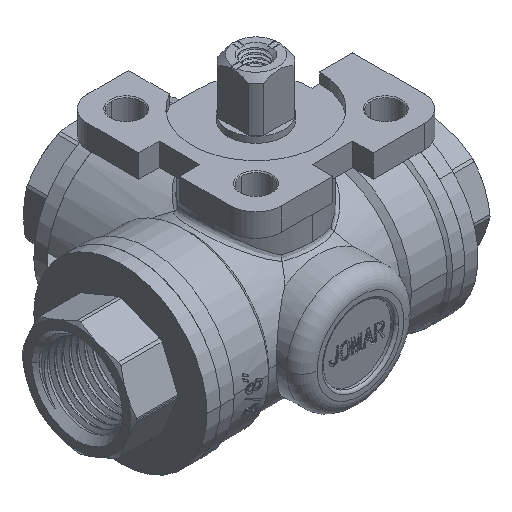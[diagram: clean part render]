
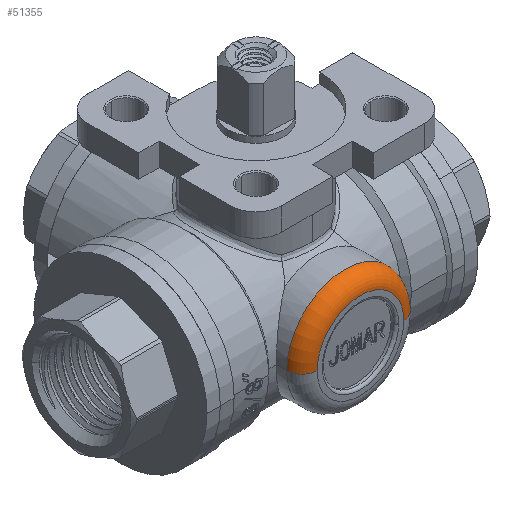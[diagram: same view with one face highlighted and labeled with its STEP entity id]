
A CAD part, isometric view. The second image highlights one B-rep face of the part: STEP entity #51355.
In plain terms, the highlighted toroidal (fillet/blend) face has major radius 0.335 mm and minor radius 0.118 mm.
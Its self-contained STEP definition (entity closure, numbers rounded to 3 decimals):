
#51075 = CYLINDRICAL_SURFACE('',#51076,0.453);
#51076 = AXIS2_PLACEMENT_3D('',#51077,#51078,#51079);
#51077 = CARTESIAN_POINT('',(-30.33,-7.971,
    -14.964));
#51078 = DIRECTION('',(0.,-1.,0.));
#51079 = DIRECTION('',(1.,0.,0.));
#51261 = VERTEX_POINT('',#51262);
#51262 = CARTESIAN_POINT('',(-30.783,-7.892,
    -14.964));
#51283 = EDGE_CURVE('',#51284,#51261,#51286,.T.);
#51284 = VERTEX_POINT('',#51285);
#51285 = CARTESIAN_POINT('',(-29.877,-7.892,
    -14.964));
#51286 = SURFACE_CURVE('',#51287,(#51292,#51299),.PCURVE_S1.);
#51287 = CIRCLE('',#51288,0.453);
#51288 = AXIS2_PLACEMENT_3D('',#51289,#51290,#51291);
#51289 = CARTESIAN_POINT('',(-30.33,-7.892,
    -14.964));
#51290 = DIRECTION('',(0.,-1.,0.));
#51291 = DIRECTION('',(1.,0.,0.));
#51292 = PCURVE('',#51075,#51293);
#51293 = DEFINITIONAL_REPRESENTATION('',(#51294),#51298);
#51294 = LINE('',#51295,#51296);
#51295 = CARTESIAN_POINT('',(0.,-0.079));
#51296 = VECTOR('',#51297,1.);
#51297 = DIRECTION('',(1.,0.));
#51298 = ( GEOMETRIC_REPRESENTATION_CONTEXT(2) 
PARAMETRIC_REPRESENTATION_CONTEXT() REPRESENTATION_CONTEXT('2D SPACE',''
  ) );
#51299 = PCURVE('',#51300,#51305);
#51300 = TOROIDAL_SURFACE('',#51301,0.335,0.118);
#51301 = AXIS2_PLACEMENT_3D('',#51302,#51303,#51304);
#51302 = CARTESIAN_POINT('',(-30.33,-7.892,
    -14.964));
#51303 = DIRECTION('',(0.,-1.,0.));
#51304 = DIRECTION('',(1.,0.,0.));
#51305 = DEFINITIONAL_REPRESENTATION('',(#51306),#51310);
#51306 = LINE('',#51307,#51308);
#51307 = CARTESIAN_POINT('',(0.,0.));
#51308 = VECTOR('',#51309,1.);
#51309 = DIRECTION('',(1.,0.));
#51310 = ( GEOMETRIC_REPRESENTATION_CONTEXT(2) 
PARAMETRIC_REPRESENTATION_CONTEXT() REPRESENTATION_CONTEXT('2D SPACE',''
  ) );
#51355 = ADVANCED_FACE('',(#51356),#51300,.T.);
#51356 = FACE_BOUND('',#51357,.T.);
#51357 = EDGE_LOOP('',(#51358,#51359,#51388,#51417));
#51358 = ORIENTED_EDGE('',*,*,#51283,.T.);
#51359 = ORIENTED_EDGE('',*,*,#51360,.T.);
#51360 = EDGE_CURVE('',#51261,#51361,#51363,.T.);
#51361 = VERTEX_POINT('',#51362);
#51362 = CARTESIAN_POINT('',(-30.665,-8.01,
    -14.964));
#51363 = SURFACE_CURVE('',#51364,(#51369,#51376),.PCURVE_S1.);
#51364 = CIRCLE('',#51365,0.118);
#51365 = AXIS2_PLACEMENT_3D('',#51366,#51367,#51368);
#51366 = CARTESIAN_POINT('',(-30.665,-7.892,
    -14.964));
#51367 = DIRECTION('',(0.,0.,1.));
#51368 = DIRECTION('',(-1.,0.,0.));
#51369 = PCURVE('',#51300,#51370);
#51370 = DEFINITIONAL_REPRESENTATION('',(#51371),#51375);
#51371 = LINE('',#51372,#51373);
#51372 = CARTESIAN_POINT('',(3.142,0.));
#51373 = VECTOR('',#51374,1.);
#51374 = DIRECTION('',(0.,1.));
#51375 = ( GEOMETRIC_REPRESENTATION_CONTEXT(2) 
PARAMETRIC_REPRESENTATION_CONTEXT() REPRESENTATION_CONTEXT('2D SPACE',''
  ) );
#51376 = PCURVE('',#51377,#51382);
#51377 = TOROIDAL_SURFACE('',#51378,0.335,0.118);
#51378 = AXIS2_PLACEMENT_3D('',#51379,#51380,#51381);
#51379 = CARTESIAN_POINT('',(-30.33,-7.892,
    -14.964));
#51380 = DIRECTION('',(0.,-1.,0.));
#51381 = DIRECTION('',(1.,0.,0.));
#51382 = DEFINITIONAL_REPRESENTATION('',(#51383),#51387);
#51383 = LINE('',#51384,#51385);
#51384 = CARTESIAN_POINT('',(3.142,0.));
#51385 = VECTOR('',#51386,1.);
#51386 = DIRECTION('',(0.,1.));
#51387 = ( GEOMETRIC_REPRESENTATION_CONTEXT(2) 
PARAMETRIC_REPRESENTATION_CONTEXT() REPRESENTATION_CONTEXT('2D SPACE',''
  ) );
#51388 = ORIENTED_EDGE('',*,*,#51389,.F.);
#51389 = EDGE_CURVE('',#51390,#51361,#51392,.T.);
#51390 = VERTEX_POINT('',#51391);
#51391 = CARTESIAN_POINT('',(-29.995,-8.01,
    -14.964));
#51392 = SURFACE_CURVE('',#51393,(#51398,#51405),.PCURVE_S1.);
#51393 = CIRCLE('',#51394,0.335);
#51394 = AXIS2_PLACEMENT_3D('',#51395,#51396,#51397);
#51395 = CARTESIAN_POINT('',(-30.33,-8.01,
    -14.964));
#51396 = DIRECTION('',(0.,-1.,0.));
#51397 = DIRECTION('',(1.,0.,0.));
#51398 = PCURVE('',#51300,#51399);
#51399 = DEFINITIONAL_REPRESENTATION('',(#51400),#51404);
#51400 = LINE('',#51401,#51402);
#51401 = CARTESIAN_POINT('',(0.,1.571));
#51402 = VECTOR('',#51403,1.);
#51403 = DIRECTION('',(1.,0.));
#51404 = ( GEOMETRIC_REPRESENTATION_CONTEXT(2) 
PARAMETRIC_REPRESENTATION_CONTEXT() REPRESENTATION_CONTEXT('2D SPACE',''
  ) );
#51405 = PCURVE('',#51406,#51411);
#51406 = PLANE('',#51407);
#51407 = AXIS2_PLACEMENT_3D('',#51408,#51409,#51410);
#51408 = CARTESIAN_POINT('',(-30.33,-8.01,
    -14.964));
#51409 = DIRECTION('',(0.,-1.,0.));
#51410 = DIRECTION('',(1.,0.,0.));
#51411 = DEFINITIONAL_REPRESENTATION('',(#51412),#51416);
#51412 = CIRCLE('',#51413,0.335);
#51413 = AXIS2_PLACEMENT_2D('',#51414,#51415);
#51414 = CARTESIAN_POINT('',(0.,0.));
#51415 = DIRECTION('',(1.,0.));
#51416 = ( GEOMETRIC_REPRESENTATION_CONTEXT(2) 
PARAMETRIC_REPRESENTATION_CONTEXT() REPRESENTATION_CONTEXT('2D SPACE',''
  ) );
#51417 = ORIENTED_EDGE('',*,*,#51418,.F.);
#51418 = EDGE_CURVE('',#51284,#51390,#51419,.T.);
#51419 = SURFACE_CURVE('',#51420,(#51425,#51432),.PCURVE_S1.);
#51420 = CIRCLE('',#51421,0.118);
#51421 = AXIS2_PLACEMENT_3D('',#51422,#51423,#51424);
#51422 = CARTESIAN_POINT('',(-29.995,-7.892,
    -14.964));
#51423 = DIRECTION('',(0.,0.,-1.));
#51424 = DIRECTION('',(0.,1.,0.));
#51425 = PCURVE('',#51300,#51426);
#51426 = DEFINITIONAL_REPRESENTATION('',(#51427),#51431);
#51427 = LINE('',#51428,#51429);
#51428 = CARTESIAN_POINT('',(0.,-1.571));
#51429 = VECTOR('',#51430,1.);
#51430 = DIRECTION('',(0.,1.));
#51431 = ( GEOMETRIC_REPRESENTATION_CONTEXT(2) 
PARAMETRIC_REPRESENTATION_CONTEXT() REPRESENTATION_CONTEXT('2D SPACE',''
  ) );
#51432 = PCURVE('',#51377,#51433);
#51433 = DEFINITIONAL_REPRESENTATION('',(#51434),#51438);
#51434 = LINE('',#51435,#51436);
#51435 = CARTESIAN_POINT('',(6.283,-1.571));
#51436 = VECTOR('',#51437,1.);
#51437 = DIRECTION('',(0.,1.));
#51438 = ( GEOMETRIC_REPRESENTATION_CONTEXT(2) 
PARAMETRIC_REPRESENTATION_CONTEXT() REPRESENTATION_CONTEXT('2D SPACE',''
  ) );
